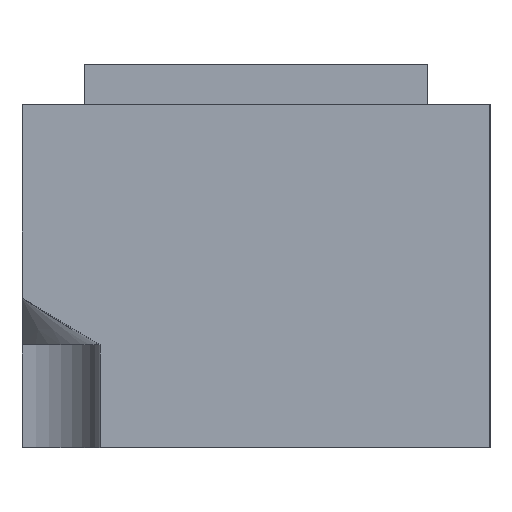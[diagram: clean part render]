
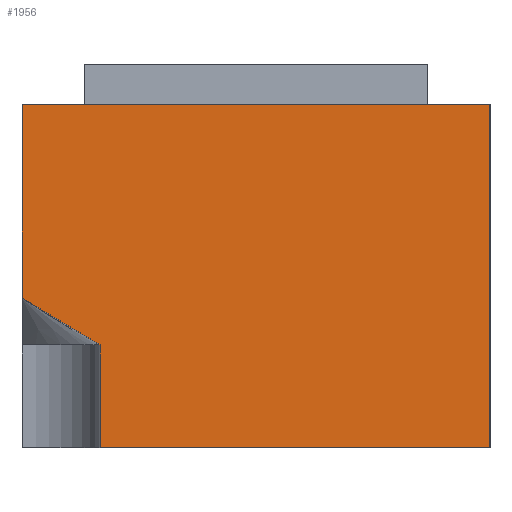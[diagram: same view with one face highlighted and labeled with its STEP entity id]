
A CAD part, left-side view. The second image highlights one B-rep face of the part: STEP entity #1956.
In plain terms, the highlighted planar face has unit normal (-1, 0, 0).
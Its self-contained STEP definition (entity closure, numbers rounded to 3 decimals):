
#108=FACE_OUTER_BOUND('',#230,.T.);
#230=EDGE_LOOP('',(#1450,#1451,#1452,#1453,#1454,#1455));
#411=LINE('',#2899,#669);
#413=LINE('',#2906,#671);
#414=LINE('',#2909,#672);
#415=LINE('',#2911,#673);
#416=LINE('',#2913,#674);
#417=LINE('',#2914,#675);
#669=VECTOR('',#2354,10.);
#671=VECTOR('',#2364,10.);
#672=VECTOR('',#2367,10.);
#673=VECTOR('',#2368,10.);
#674=VECTOR('',#2369,10.);
#675=VECTOR('',#2370,10.);
#902=VERTEX_POINT('',#2896);
#903=VERTEX_POINT('',#2898);
#904=VERTEX_POINT('',#2904);
#905=VERTEX_POINT('',#2908);
#906=VERTEX_POINT('',#2910);
#907=VERTEX_POINT('',#2912);
#1107=EDGE_CURVE('',#902,#903,#411,.T.);
#1111=EDGE_CURVE('',#902,#904,#413,.T.);
#1112=EDGE_CURVE('',#904,#905,#414,.T.);
#1113=EDGE_CURVE('',#906,#905,#415,.T.);
#1114=EDGE_CURVE('',#906,#907,#416,.T.);
#1115=EDGE_CURVE('',#903,#907,#417,.T.);
#1450=ORIENTED_EDGE('',*,*,#1111,.T.);
#1451=ORIENTED_EDGE('',*,*,#1112,.T.);
#1452=ORIENTED_EDGE('',*,*,#1113,.F.);
#1453=ORIENTED_EDGE('',*,*,#1114,.T.);
#1454=ORIENTED_EDGE('',*,*,#1115,.F.);
#1455=ORIENTED_EDGE('',*,*,#1107,.F.);
#1842=PLANE('',#2101);
#1956=ADVANCED_FACE('',(#108),#1842,.T.);
#2101=AXIS2_PLACEMENT_3D('',#2907,#2365,#2366);
#2354=DIRECTION('',(0.,0.,1.));
#2364=DIRECTION('',(0.,-0.858,-0.514));
#2365=DIRECTION('center_axis',(-1.,0.,0.));
#2366=DIRECTION('ref_axis',(0.,-1.,0.));
#2367=DIRECTION('',(0.,0.,-1.));
#2368=DIRECTION('',(0.,1.,0.));
#2369=DIRECTION('',(0.,0.,1.));
#2370=DIRECTION('',(0.,-1.,0.));
#2896=CARTESIAN_POINT('',(-2.95,1.5,0.48));
#2898=CARTESIAN_POINT('',(-2.95,1.5,1.1));
#2899=CARTESIAN_POINT('',(-2.95,1.5,0.));
#2904=CARTESIAN_POINT('',(-2.95,1.25,0.33));
#2906=CARTESIAN_POINT('',(-2.95,1.25,0.33));
#2907=CARTESIAN_POINT('Origin',(-2.95,1.5,0.));
#2908=CARTESIAN_POINT('',(-2.95,1.25,0.));
#2909=CARTESIAN_POINT('',(-2.95,1.25,0.));
#2910=CARTESIAN_POINT('',(-2.95,0.,0.));
#2911=CARTESIAN_POINT('',(-2.95,0.,0.));
#2912=CARTESIAN_POINT('',(-2.95,0.,1.1));
#2913=CARTESIAN_POINT('',(-2.95,0.,0.));
#2914=CARTESIAN_POINT('',(-2.95,0.,1.1));
